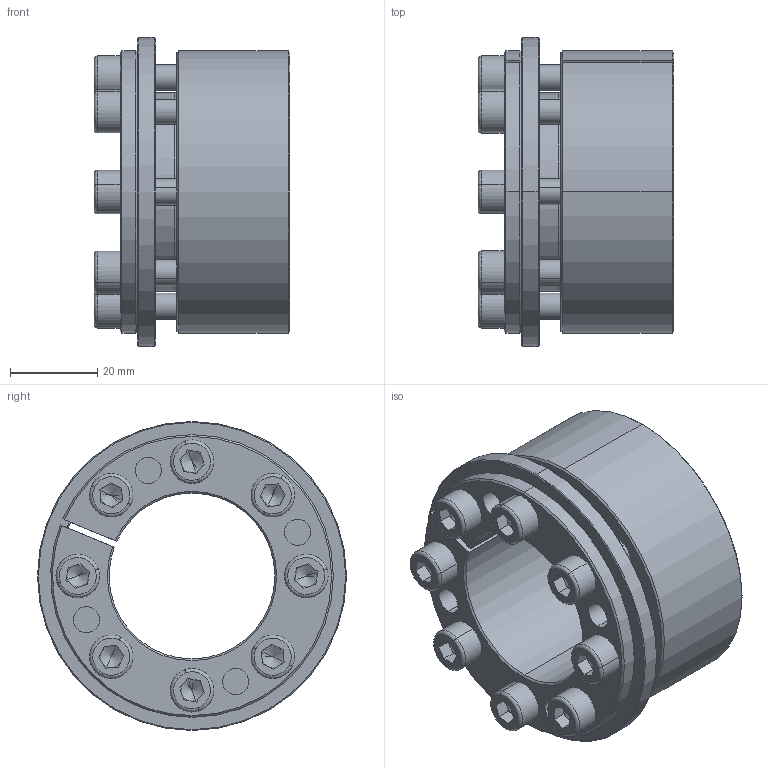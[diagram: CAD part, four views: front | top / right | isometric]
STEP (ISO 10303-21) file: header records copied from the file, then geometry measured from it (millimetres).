
FILE_DESCRIPTION (( 'STEP AP214' ), '1' );
FILE_NAME ('H5×°ÅäÌå38-65.STEP', '2022-07-26T02:04:17', ( '' ), ( '' ), 'SwSTEP 2.0', 'SolidWorks 2022', '' );
FILE_SCHEMA (( 'AUTOMOTIVE_DESIGN' ));
Length unit declared in the file: millimetre
Products named in the file (1): H5蚾饜极38-65
Bounding box: 45 x 71 x 71 mm (x, y, z)
Volume: 76933.8 mm3; surface area: 31003.5 mm2
Topology: 1 solids, 1 shells, 313 faces, 765 edges, 470 vertices
Faces by surface type: plane 130, cylinder 91, cone 76, torus 16
Entity records: 9228 total; most frequent: DIRECTION 1712, CARTESIAN_POINT 1605, ORIENTED_EDGE 1498, EDGE_CURVE 749, AXIS2_PLACEMENT_3D 673, VERTEX_POINT 470, EDGE_LOOP 371, LINE 366
